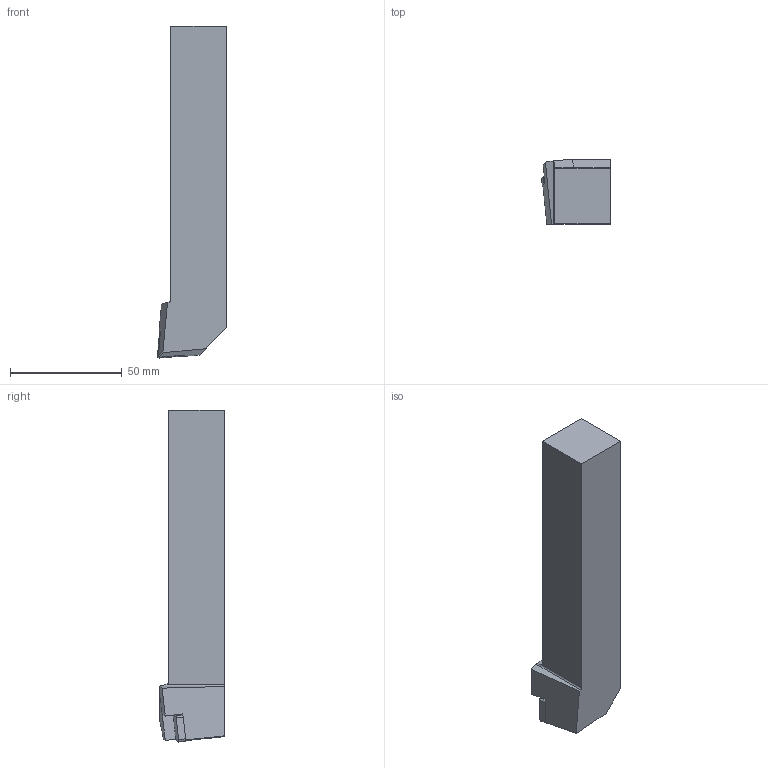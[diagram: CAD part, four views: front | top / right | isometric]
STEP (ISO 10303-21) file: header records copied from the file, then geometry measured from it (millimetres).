
FILE_DESCRIPTION(('CATIA V5 STEP','CAx-IF Rec.Pracs.--- Model Styling and Organization---1.2---2011-12-15'),'2;1');
FILE_NAME('I:\isr\design\admin8\users\weaam_s\3600693D.stp','2017-12-24T12:53:57+00:00',('none'),('none'),'CATIA Version 5 Release 21 SP 5 (IN-10)','CATIA V5 STEP AP214','none');
FILE_SCHEMA(('AUTOMOTIVE_DESIGN { 1 0 10303 214 1 1 1 1 }'));
Length unit declared in the file: millimetre
Products named in the file (1): PCLNR 2525M-12
Bounding box: 30.88 x 29 x 148.88 mm (x, y, z)
Volume: 93504.6 mm3; surface area: 16418.4 mm2
Topology: 1 solids, 1 shells, 31 faces, 83 edges, 54 vertices
Faces by surface type: plane 25, cylinder 6
Entity records: 1019 total; most frequent: CARTESIAN_POINT 188, ORIENTED_EDGE 166, DIRECTION 143, EDGE_CURVE 83, VECTOR 68, LINE 68, VERTEX_POINT 54, AXIS2_PLACEMENT_3D 45
